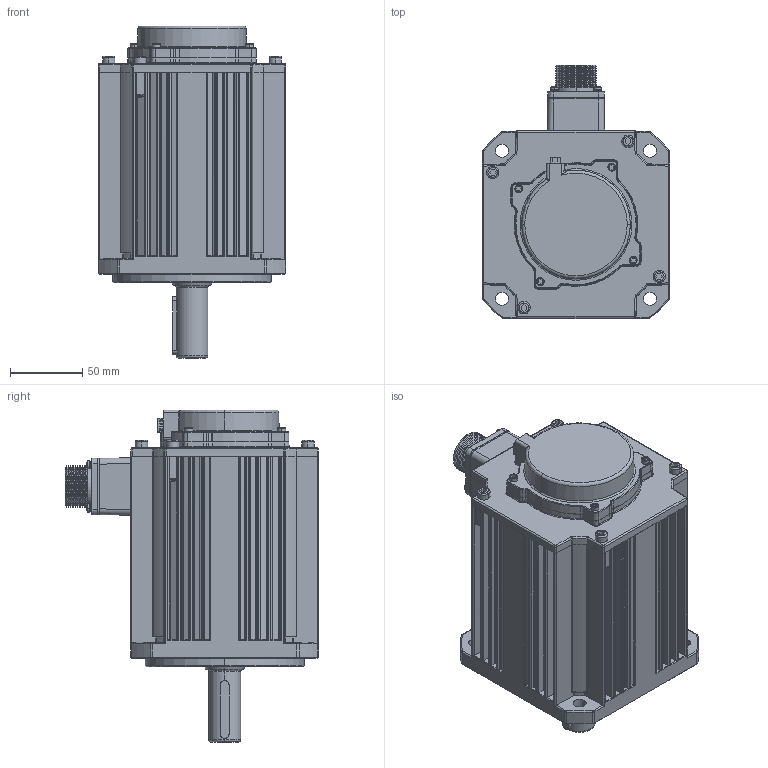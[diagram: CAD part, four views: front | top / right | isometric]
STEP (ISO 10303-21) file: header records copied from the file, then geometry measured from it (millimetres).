
FILE_DESCRIPTION (( 'STEP AP203' ), '1' );
FILE_NAME ('G3系列130伺服-2300W电机三维图-三竹插拔式.STEP', '2023-09-27T08:56:52', ( '微软用户' ), ( '微软中国' ), 'SwSTEP 2.0', 'SolidWorks 2016', '' );
FILE_SCHEMA (( 'CONFIG_CONTROL_DESIGN' ));
Products named in the file (1): G3系列130伺服-2300W电机三维图-三竹插拔式
Bounding box: 130 x 175.3 x 230 mm (x, y, z)
Surface area: 322445 mm2 (no closed solid volume)
Topology: 0 solids, 21 shells, 3563 faces, 9174 edges, 5741 vertices
Faces by surface type: plane 1531, cylinder 741, bspline 561, cone 464, torus 199, sphere 67
Entity records: 125602 total; most frequent: CARTESIAN_POINT 42774, ORIENTED_EDGE 18140, DIRECTION 15936, EDGE_CURVE 9084, VERTEX_POINT 5729, AXIS2_PLACEMENT_3D 5349, VECTOR 5238, LINE 5238
